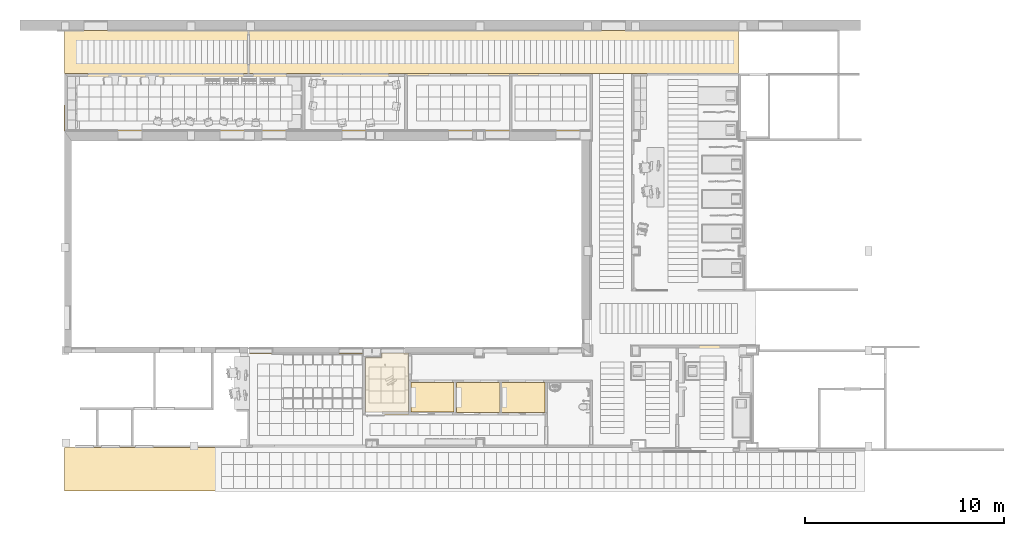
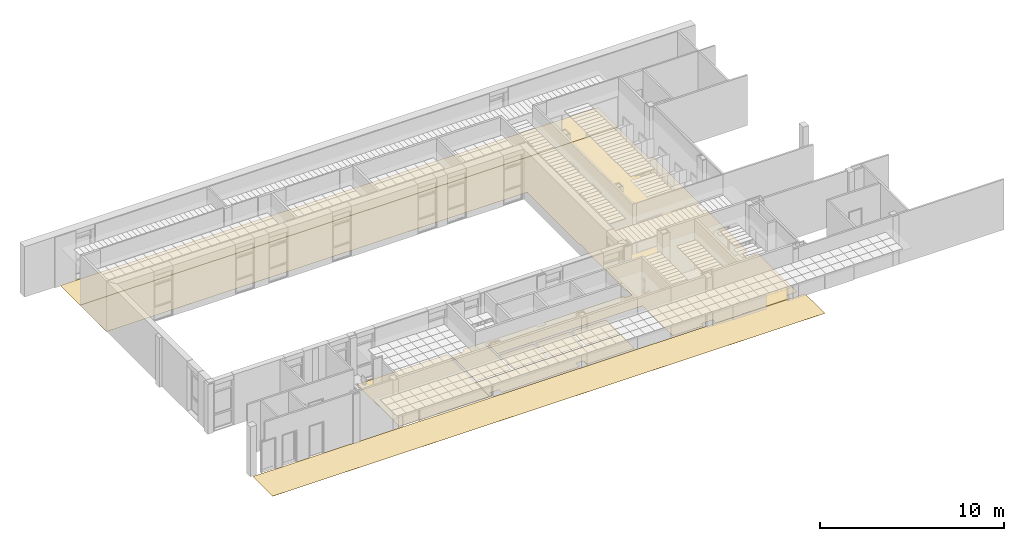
# One storey, part 60 of 68: 9 coverings.
"""IFC2X3 building model written with IfcOpenShell, lengths in millimetres."""

from ifc_helpers import new_model, entity, si_unit, converted_unit, derived_unit, money_unit, direction, frame, origin_with_axes, place, context, subcontext, project, spatial, polyline, outline, extrude, material, type_object, element, save


model = new_model("IFC2X3")

# Units and contexts
model_context = context("Model", 3, precision=0.01, world=origin_with_axes(), true_north=direction((0.0, 1.0)))
body_context = subcontext(model_context, "Body", "Model", "MODEL_VIEW")
ifc_project = project(units=[si_unit("LENGTHUNIT", "METRE", prefix="MILLI"), si_unit("AREAUNIT", "SQUARE_METRE"), si_unit("VOLUMEUNIT", "CUBIC_METRE"), converted_unit("PLANEANGLEUNIT", "DEGREE", entity("IfcPlaneAngleMeasure", 0.0174532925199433), si_unit("PLANEANGLEUNIT", "RADIAN"), dimensions=[0, 0, 0, 0, 0, 0, 0]), money_unit("USD"), converted_unit("TIMEUNIT", "Year", entity("IfcTimeMeasure", 31557600.0), si_unit("TIMEUNIT", "SECOND"), dimensions=[0, 0, 1, 0, 0, 0, 0]), si_unit("MASSUNIT", "GRAM", prefix="KILO"), si_unit("THERMODYNAMICTEMPERATUREUNIT", "DEGREE_CELSIUS"), si_unit("LUMINOUSINTENSITYUNIT", "LUMEN"), si_unit("ENERGYUNIT", "JOULE", prefix="MEGA"), derived_unit("THERMALCONDUCTANCEUNIT", [(si_unit("POWERUNIT", "WATT"), 1), (si_unit("LENGTHUNIT", "METRE"), -1), (si_unit("THERMODYNAMICTEMPERATUREUNIT", "KELVIN"), -1)]), derived_unit("SPECIFICHEATCAPACITYUNIT", [(si_unit("ENERGYUNIT", "JOULE"), 1), (si_unit("MASSUNIT", "GRAM", prefix="KILO"), -1), (si_unit("THERMODYNAMICTEMPERATUREUNIT", "KELVIN"), -1)]), derived_unit("MASSDENSITYUNIT", [(si_unit("MASSUNIT", "GRAM", prefix="KILO"), 1), (si_unit("VOLUMEUNIT", "CUBIC_METRE"), -1)])], contexts=[model_context])

# Site, building, storey
site_placement = place(None, origin_with_axes())
site = spatial("IfcSite", under=ifc_project, at=site_placement, Name="Sitio", CompositionType="ELEMENT")
building_placement = place(site_placement, origin_with_axes())
building = spatial("IfcBuilding", under=site, at=building_placement, Name="Construcción", CompositionType="ELEMENT")
storey_placement = place(building_placement, origin_with_axes())
storey = spatial("IfcBuildingStorey", under=building, at=storey_placement, Name="PLANTA 1ª", CompositionType="ELEMENT", Elevation=0.0)

# Coverings
ifc_material_1 = material(Name="ARQ_AM253_Tarkett IQ Clar")
covering_type_1 = type_object("IfcCoveringType", Name="ARQ_AM253_Tarkett IQ Clar 2", PredefinedType="NOTDEFINED")
covering_1_placement = place(storey_placement, frame((-8386.312297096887, -15313.87091483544, 1.99999999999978), z_axis=(0.0, 0.0, 1.0), x_axis=(1.0, 0.0, 0.0)))
element("IfcCovering", 1, at=covering_1_placement, inside=storey, type_object=covering_type_1, material=ifc_material_1, Name="SLA - 013", PredefinedType="NOTDEFINED", context=body_context, shape_type="SweptSolid", body=[
    extrude(outline(polyline([(0.0, 0.0), (2156.030300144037, 0.0), (2156.030300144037, 1497.310260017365), (0.0, 1497.310260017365), (0.0, 0.0)])), frame((0.0, 0.0, -2.0), z_axis=(0.0, 0.0, 1.0), x_axis=(1.0, 0.0, 0.0)), (0.0, 0.0, 1.0), 2.0),
])
covering_2_placement = place(storey_placement, frame((-28067.13265814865, -1194.16026128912, 1.99999999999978), z_axis=(0.0, 0.0, 1.0), x_axis=(1.0, 0.0, 0.0)))
element("IfcCovering", 2, at=covering_2_placement, inside=storey, type_object=covering_type_1, material=ifc_material_1, Name="SLA - 013", PredefinedType="NOTDEFINED", context=body_context, shape_type="SweptSolid", body=[
    extrude(outline(polyline([(0.0, 0.0), (26436.02360177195, 0.5254997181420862), (26436.02365428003, -5744.814346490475), (26511.02370579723, -5744.814345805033), (26511.02370579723, -6309.816428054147), (26450.87225303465, -6309.819314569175), (26451.08493324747, -10741.81556195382), (26502.23851270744, -10741.81556195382), (26502.23851270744, -11297.81572710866), (26043.02365126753, -11297.81572710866), (26043.02365126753, -11144.8155624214), (21069.73975471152, -11144.8155624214), (21069.73975471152, -11353.40039352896), (20563.73846014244, -11353.40039352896), (20563.73846014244, -11197.81489842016), (17399.28379562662, -11197.81489842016), (17398.05247352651, -12470.84274339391), (26514.23851270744, -12480.40039352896), (26508.56723663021, -15767.94706062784), (28442.54071838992, -15772.00495468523), (28443.02370579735, -15541.81539704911), (29146.52850865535, -15541.81617545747), (29145.94473802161, -15920.43463488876), (30689.96671559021, -15922.81527604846), (30690.04563080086, -15871.63292161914), (33846.02370579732, -15876.49894775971), (33846.02370579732, -15544.81539704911), (34446.02369633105, -15544.81538962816), (34446.02364376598, -11294.81555498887), (33846.02365323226, -11294.81556240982), (33846.87263195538, -10744.70803874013), (34066.02365323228, -10744.70368241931), (34066.02365323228, -6294.815562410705), (33846.02365323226, -6294.815562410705), (33846.02365323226, -5744.815397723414), (34066.02365323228, -5744.815397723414), (34066.02365323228, -514.8155624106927), (33826.02365323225, -514.8155624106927), (33826.02365323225, 2895.013317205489), (16.28447786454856, 2895.013317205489), (0.0, 0.0)])), frame((0.0, 0.0, -2.0), z_axis=(0.0, 0.0, 1.0), x_axis=(1.0, 0.0, 0.0)), (0.0, 0.0, 1.0), 2.0),
])
covering_3_placement = place(storey_placement, frame((-10666.28023698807, -15302.87762281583, 1.99999999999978), z_axis=(0.0, 0.0, 1.0), x_axis=(1.0, 0.0, 0.0)))
element("IfcCovering", 3, at=covering_3_placement, inside=storey, type_object=covering_type_1, material=ifc_material_1, Name="SLA - 014", PredefinedType="NOTDEFINED", context=body_context, shape_type="SweptSolid", body=[
    extrude(outline(polyline([(0.0, 0.0), (2157.9678066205, 0.0), (2157.9678066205, 1486.316967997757), (0.0, 1486.316967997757), (0.0, 0.0)])), frame((0.0, 0.0, -2.0), z_axis=(0.0, 0.0, 1.0), x_axis=(1.0, 0.0, 0.0)), (0.0, 0.0, 1.0), 2.0),
])
covering_4_placement = place(storey_placement, frame((-12951.12917196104, -15302.57528316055, 1.99999999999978), z_axis=(0.0, 0.0, 1.0), x_axis=(1.0, 0.0, 0.0)))
element("IfcCovering", 4, at=covering_4_placement, inside=storey, type_object=covering_type_1, material=ifc_material_1, Name="SLA - 013", PredefinedType="NOTDEFINED", context=body_context, shape_type="SweptSolid", body=[
    extrude(outline(polyline([(0.0, 0.0), (2162.849248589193, 0.0), (2162.849248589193, 2963.59945945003), (806.7111782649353, 2963.59945945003), (806.7111782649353, 2755.014628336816), (0.0, 2755.014628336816), (0.0, 0.0)])), frame((0.0, 0.0, -2.0), z_axis=(0.0, 0.0, 1.0), x_axis=(1.0, 0.0, 0.0)), (0.0, 0.0, 1.0), 2.0),
])
covering_5_placement = place(storey_placement, frame((-13077.37342343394, -16961.97582400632, 1.99999999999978), z_axis=(0.0, 0.0, 1.0), x_axis=(1.0, 0.0, 0.0)))
element("IfcCovering", 5, at=covering_5_placement, inside=storey, type_object=covering_type_1, material=ifc_material_1, Name="SLA - 013", PredefinedType="NOTDEFINED", context=body_context, shape_type="SweptSolid", body=[
    extrude(outline(polyline([(0.0, 0.0), (140.7768390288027, 6.221263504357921e-07), (140.7768376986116, 301.0000008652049), (768.1816156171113, 301.0000002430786), (768.1816156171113, 2.958557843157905e-07), (5656.479225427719, 2.958557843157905e-07), (5656.479225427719, 381.0000002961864), (6112.479228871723, 381.0000002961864), (6112.479228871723, 2.958557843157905e-07), (9128.07950791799, 2.958557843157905e-07), (9128.07950791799, 1543.072998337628), (0.0, 1543.072998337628), (0.0, 0.0)])), frame((0.0, 0.0, -2.0), z_axis=(0.0, 0.0, 1.0), x_axis=(1.0, 0.0, 0.0)), (0.0, 0.0, 1.0), 2.0),
])
covering_6_placement = place(storey_placement, frame((-18763.60900490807, -16961.97582371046, 1.99999999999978), z_axis=(0.0, 0.0, 1.0), x_axis=(1.0, 0.0, 0.0)))
element("IfcCovering", 6, at=covering_6_placement, inside=storey, type_object=covering_type_1, material=ifc_material_1, Name="SLA - 013", PredefinedType="NOTDEFINED", context=body_context, shape_type="SweptSolid", body=[
    extrude(outline(polyline([(0.0, 0.0), (5686.23558147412, 0.0), (5686.23558147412, 4620.878510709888), (0.0, 4620.878510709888), (0.0, 0.0)])), frame((0.0, 0.0, -2.0), z_axis=(0.0, 0.0, 1.0), x_axis=(1.0, 0.0, 0.0)), (0.0, 0.0, 1.0), 2.0),
])
covering_7_placement = place(storey_placement, frame((-6108.282310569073, -15314.17325449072, 1.99999999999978), z_axis=(0.0, 0.0, 1.0), x_axis=(1.0, 0.0, 0.0)))
element("IfcCovering", 7, at=covering_7_placement, inside=storey, type_object=covering_type_1, material=ifc_material_1, Name="SLA - 013", PredefinedType="NOTDEFINED", context=body_context, shape_type="SweptSolid", body=[
    extrude(outline(polyline([(0.0, 0.0), (2160.189319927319, 0.0), (2160.189319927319, 1497.612500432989), (0.0, 1497.612500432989), (0.0, 0.0)])), frame((0.0, 0.0, -2.0), z_axis=(0.0, 0.0, 1.0), x_axis=(1.0, 0.0, 0.0)), (0.0, 0.0, 1.0), 2.0),
])
ifc_material_2 = material(Name="ARQ_AM253_Tarkett IQ Habitacions")
covering_type_2 = type_object("IfcCoveringType", Name="ARQ_AM253_Tarkett IQ Habitacions 2", PredefinedType="NOTDEFINED")
covering_8_placement = place(storey_placement, frame((5758.890995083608, 1700.853055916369, 1.99999999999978), z_axis=(0.0, 0.0, 1.0), x_axis=(1.0, 0.0, 0.0)))
element("IfcCovering", 8, at=covering_8_placement, inside=storey, type_object=covering_type_2, material=ifc_material_2, Name="SLA - 013", PredefinedType="NOTDEFINED", context=body_context, shape_type="SweptSolid", body=[
    extrude(outline(polyline([(0.0, 0.0), (0.0, 2162.600258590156), (-33797.57452803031, 2162.600258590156), (-33809.73917536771, 0.0), (0.0, 0.0)])), frame((0.0, 0.0, -2.0), z_axis=(0.0, 0.0, 1.0), x_axis=(1.0, 0.0, 0.0)), (0.0, 0.0, 1.0), 2.0),
])
covering_9_placement = place(storey_placement, frame((6678.890995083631, -19246.57608230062, 1.99999999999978), z_axis=(0.0, 0.0, 1.0), x_axis=(1.0, 0.0, 0.0)))
element("IfcCovering", 9, at=covering_9_placement, inside=storey, type_object=covering_type_2, material=ifc_material_2, Name="SLA - 013", PredefinedType="NOTDEFINED", context=body_context, shape_type="SweptSolid", body=[
    extrude(outline(polyline([(0.0, 0.0), (0.0, 2162.600258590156), (-34717.57452803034, 2162.600258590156), (-34729.73917536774, 0.0), (0.0, 0.0)])), frame((0.0, 0.0, -2.0), z_axis=(0.0, 0.0, 1.0), x_axis=(1.0, 0.0, 0.0)), (0.0, 0.0, 1.0), 2.0),
])

save(model, "model.ifc")
